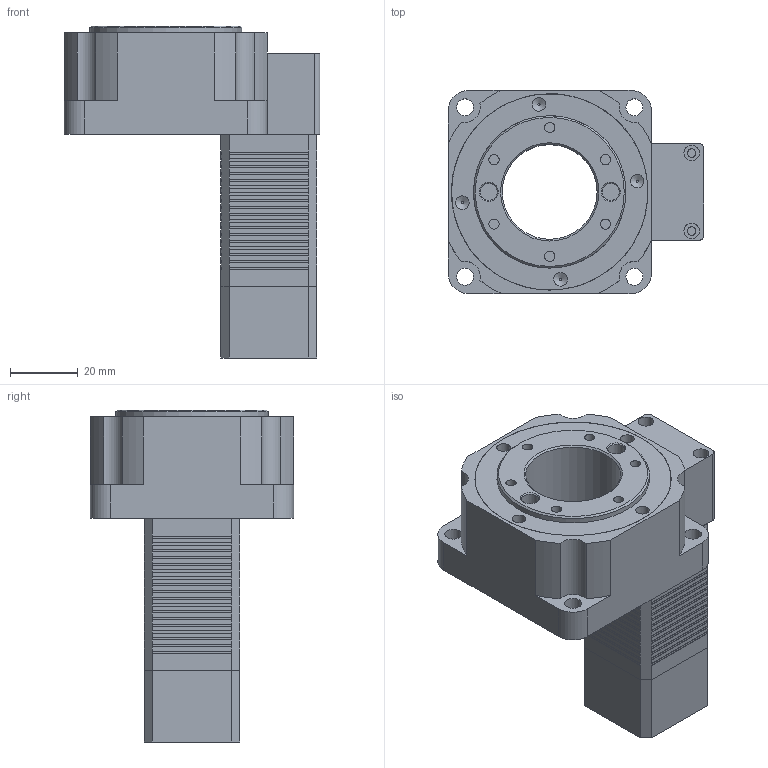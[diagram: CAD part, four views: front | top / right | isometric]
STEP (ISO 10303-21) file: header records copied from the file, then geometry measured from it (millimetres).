
FILE_DESCRIPTION (( 'STEP AP203' ), '1' );
FILE_NAME ('HRII60.STEP', '2015-01-05T01:29:33', ( 'wang' ), ( '' ), 'SwSTEP 2.0', 'SolidWorks 2013', '' );
FILE_SCHEMA (( 'CONFIG_CONTROL_DESIGN' ));
Length unit declared in the file: millimetre
Products named in the file (1): HRII60
Bounding box: 75.5 x 60 x 98 mm (x, y, z)
Volume: 120840 mm3; surface area: 44262 mm2
Topology: 5 solids, 5 shells, 561 faces, 1319 edges, 784 vertices
Faces by surface type: plane 492, cylinder 58, cone 11
Full cylindrical faces by diameter (mm): 2.5 x4, 3 x6, 4 x4, 4.6 x4, 5 x7, 6 x1, 22 x2, 28 x2, 35 x1, 45 x2, 55 x1, 58 x2
Entity records: 15225 total; most frequent: CARTESIAN_POINT 2584, DIRECTION 2514, ORIENTED_EDGE 2510, EDGE_CURVE 1255, LINE 1120, VECTOR 1120, VERTEX_POINT 767, AXIS2_PLACEMENT_3D 697
